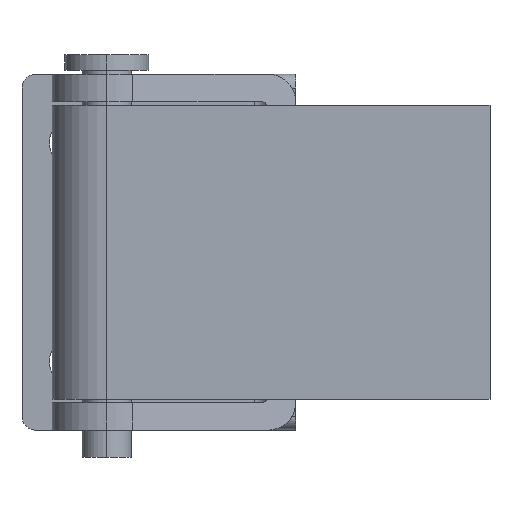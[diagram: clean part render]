
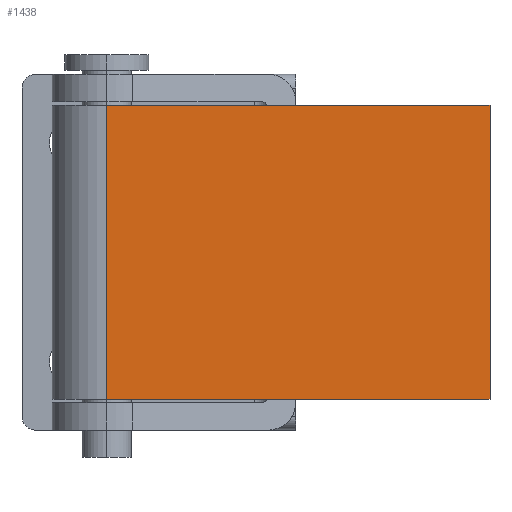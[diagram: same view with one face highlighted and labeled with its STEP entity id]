
A CAD part, left-side view. The second image highlights one B-rep face of the part: STEP entity #1438.
In plain terms, the highlighted planar face has unit normal (-1, 0, 0).
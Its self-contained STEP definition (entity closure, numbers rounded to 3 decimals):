
#10 = VERTEX_POINT ( 'NONE', #1085 ) ;
#68 = DIRECTION ( 'NONE',  ( 0., 1., 0. ) ) ;
#81 = CARTESIAN_POINT ( 'NONE',  ( -4.002, 0., 10.75 ) ) ;
#111 = DIRECTION ( 'NONE',  ( 0., -1., 0. ) ) ;
#129 = AXIS2_PLACEMENT_3D ( 'NONE', #1924, #1624, #68 ) ;
#239 = ORIENTED_EDGE ( 'NONE', *, *, #1943, .F. ) ;
#412 = PLANE ( 'NONE',  #129 ) ;
#427 = EDGE_LOOP ( 'NONE', ( #1522, #239, #1574, #1113 ) ) ;
#451 = LINE ( 'NONE', #1506, #1826 ) ;
#458 = EDGE_CURVE ( 'NONE', #530, #10, #1556, .T. ) ;
#530 = VERTEX_POINT ( 'NONE', #1938 ) ;
#562 = CARTESIAN_POINT ( 'NONE',  ( -4.002, 0., 10.75 ) ) ;
#564 = FACE_OUTER_BOUND ( 'NONE', #427, .T. ) ;
#680 = EDGE_CURVE ( 'NONE', #768, #530, #1640, .T. ) ;
#768 = VERTEX_POINT ( 'NONE', #81 ) ;
#795 = VECTOR ( 'NONE', #1458, 1000. ) ;
#858 = DIRECTION ( 'NONE',  ( 0., 0., -1. ) ) ;
#917 = CARTESIAN_POINT ( 'NONE',  ( -4.002, 0., -10.75 ) ) ;
#1033 = CARTESIAN_POINT ( 'NONE',  ( -4.002, -28., 10.75 ) ) ;
#1058 = VECTOR ( 'NONE', #1727, 1000. ) ;
#1085 = CARTESIAN_POINT ( 'NONE',  ( -4.002, -28., -10.75 ) ) ;
#1113 = ORIENTED_EDGE ( 'NONE', *, *, #680, .T. ) ;
#1165 = CARTESIAN_POINT ( 'NONE',  ( -4.002, -28., 10.75 ) ) ;
#1339 = LINE ( 'NONE', #1033, #795 ) ;
#1438 = ADVANCED_FACE ( 'NONE', ( #564 ), #412, .F. ) ;
#1452 = VECTOR ( 'NONE', #858, 1000. ) ;
#1458 = DIRECTION ( 'NONE',  ( 0., 0., -1. ) ) ;
#1506 = CARTESIAN_POINT ( 'NONE',  ( -4.002, 0., 10.75 ) ) ;
#1521 = EDGE_CURVE ( 'NONE', #768, #2022, #451, .T. ) ;
#1522 = ORIENTED_EDGE ( 'NONE', *, *, #458, .T. ) ;
#1556 = LINE ( 'NONE', #917, #1058 ) ;
#1574 = ORIENTED_EDGE ( 'NONE', *, *, #1521, .F. ) ;
#1624 = DIRECTION ( 'NONE',  ( 1., 0., 0. ) ) ;
#1640 = LINE ( 'NONE', #562, #1452 ) ;
#1727 = DIRECTION ( 'NONE',  ( 0., -1., 0. ) ) ;
#1826 = VECTOR ( 'NONE', #111, 1000. ) ;
#1924 = CARTESIAN_POINT ( 'NONE',  ( -4.002, 0., 10.75 ) ) ;
#1938 = CARTESIAN_POINT ( 'NONE',  ( -4.002, 0., -10.75 ) ) ;
#1943 = EDGE_CURVE ( 'NONE', #2022, #10, #1339, .T. ) ;
#2022 = VERTEX_POINT ( 'NONE', #1165 ) ;
